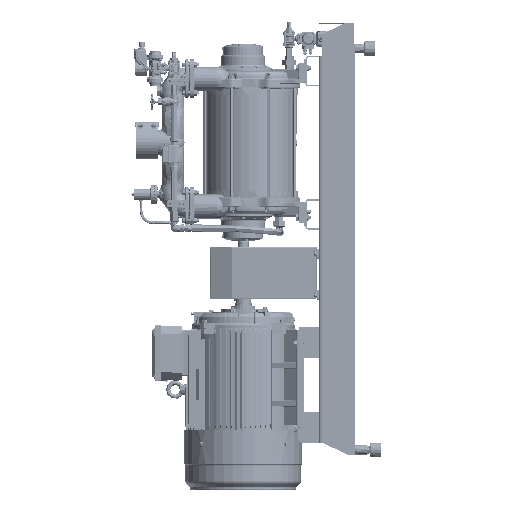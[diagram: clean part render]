
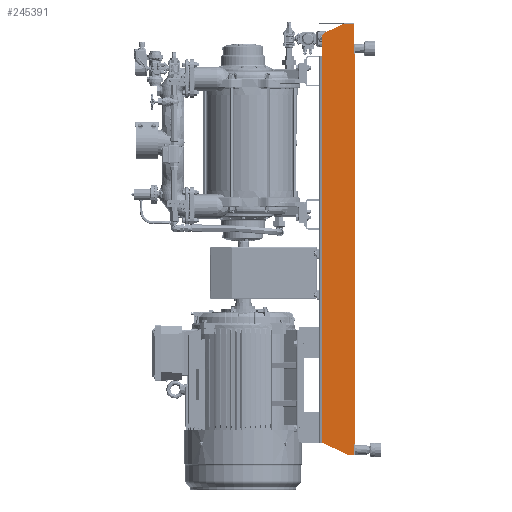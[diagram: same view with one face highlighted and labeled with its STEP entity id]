
A CAD part, left-side view. The second image highlights one B-rep face of the part: STEP entity #245391.
In plain terms, the highlighted planar face has unit normal (-1, 0, 0).
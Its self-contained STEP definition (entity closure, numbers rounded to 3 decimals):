
#8269=PLANE('',#269603);
#24720=CIRCLE('',#269604,25.);
#37655=FACE_OUTER_BOUND('',#52695,.T.);
#52695=EDGE_LOOP('',(#209154,#209155,#209156,#209157,#209158,#209159,#209160,
#209161,#209162,#209163,#209164,#209165));
#67773=LINE('',#594137,#83565);
#68481=LINE('',#596342,#84273);
#68482=LINE('',#596344,#84274);
#68483=LINE('',#596345,#84275);
#68484=LINE('',#596347,#84276);
#68485=LINE('',#596351,#84277);
#68486=LINE('',#596353,#84278);
#68487=LINE('',#596355,#84279);
#68488=LINE('',#596357,#84280);
#68489=LINE('',#596359,#84281);
#68490=LINE('',#596360,#84282);
#83565=VECTOR('',#324421,10.);
#84273=VECTOR('',#326355,10.);
#84274=VECTOR('',#326356,10.);
#84275=VECTOR('',#326357,10.);
#84276=VECTOR('',#326358,10.);
#84277=VECTOR('',#326361,10.);
#84278=VECTOR('',#326362,10.);
#84279=VECTOR('',#326363,10.);
#84280=VECTOR('',#326364,10.);
#84281=VECTOR('',#326365,10.);
#84282=VECTOR('',#326366,10.);
#110986=VERTEX_POINT('',#594134);
#110987=VERTEX_POINT('',#594136);
#111612=VERTEX_POINT('',#596340);
#111613=VERTEX_POINT('',#596341);
#111614=VERTEX_POINT('',#596343);
#111615=VERTEX_POINT('',#596346);
#111616=VERTEX_POINT('',#596348);
#111617=VERTEX_POINT('',#596350);
#111618=VERTEX_POINT('',#596352);
#111619=VERTEX_POINT('',#596354);
#111620=VERTEX_POINT('',#596356);
#111621=VERTEX_POINT('',#596358);
#143664=EDGE_CURVE('',#110986,#110987,#67773,.T.);
#144696=EDGE_CURVE('',#111612,#111613,#68481,.T.);
#144697=EDGE_CURVE('',#111612,#111614,#68482,.T.);
#144698=EDGE_CURVE('',#110987,#111614,#68483,.T.);
#144699=EDGE_CURVE('',#111615,#110986,#68484,.T.);
#144700=EDGE_CURVE('',#111616,#111615,#24720,.T.);
#144701=EDGE_CURVE('',#111617,#111616,#68485,.T.);
#144702=EDGE_CURVE('',#111617,#111618,#68486,.T.);
#144703=EDGE_CURVE('',#111619,#111618,#68487,.T.);
#144704=EDGE_CURVE('',#111620,#111619,#68488,.T.);
#144705=EDGE_CURVE('',#111620,#111621,#68489,.T.);
#144706=EDGE_CURVE('',#111621,#111613,#68490,.T.);
#209154=ORIENTED_EDGE('',*,*,#144696,.F.);
#209155=ORIENTED_EDGE('',*,*,#144697,.T.);
#209156=ORIENTED_EDGE('',*,*,#144698,.F.);
#209157=ORIENTED_EDGE('',*,*,#143664,.F.);
#209158=ORIENTED_EDGE('',*,*,#144699,.F.);
#209159=ORIENTED_EDGE('',*,*,#144700,.F.);
#209160=ORIENTED_EDGE('',*,*,#144701,.F.);
#209161=ORIENTED_EDGE('',*,*,#144702,.T.);
#209162=ORIENTED_EDGE('',*,*,#144703,.F.);
#209163=ORIENTED_EDGE('',*,*,#144704,.F.);
#209164=ORIENTED_EDGE('',*,*,#144705,.T.);
#209165=ORIENTED_EDGE('',*,*,#144706,.T.);
#245391=ADVANCED_FACE('',(#37655),#8269,.T.);
#269603=AXIS2_PLACEMENT_3D('',#596339,#326353,#326354);
#269604=AXIS2_PLACEMENT_3D('',#596349,#326359,#326360);
#324421=DIRECTION('',(0.,-1.,0.));
#326353=DIRECTION('center_axis',(-1.,0.,0.));
#326354=DIRECTION('ref_axis',(0.,0.,
-1.));
#326355=DIRECTION('',(0.,0.,-1.));
#326356=DIRECTION('',(0.,1.,0.));
#326357=DIRECTION('',(0.,0.,-1.));
#326358=DIRECTION('',(0.,-0.906,0.423));
#326359=DIRECTION('center_axis',(1.,0.,0.));
#326360=DIRECTION('ref_axis',(0.,0.843,0.537));
#326361=DIRECTION('',(0.,0.,1.));
#326362=DIRECTION('',(0.,0.,-1.));
#326363=DIRECTION('',(0.,0.906,0.423));
#326364=DIRECTION('',(0.,1.,0.));
#326365=DIRECTION('',(0.,0.,1.));
#326366=DIRECTION('',(0.,-1.,0.));
#594134=CARTESIAN_POINT('',(-254.,51.196,923.75));
#594136=CARTESIAN_POINT('',(-254.,6.,923.75));
#594137=CARTESIAN_POINT('',(-254.,51.196,923.75));
#596339=CARTESIAN_POINT('Origin',(-254.,403.586,0.));
#596340=CARTESIAN_POINT('',(-254.,0.,799.75));
#596341=CARTESIAN_POINT('',(-254.,0.,-799.75));
#596342=CARTESIAN_POINT('',(-254.,0.,-793.75));
#596343=CARTESIAN_POINT('',(-254.,6.,799.75));
#596344=CARTESIAN_POINT('',(-254.,201.793,799.75));
#596345=CARTESIAN_POINT('',(-254.,6.,923.75));
#596346=CARTESIAN_POINT('',(-254.,123.565,890.004));
#596347=CARTESIAN_POINT('',(-254.,138.,883.273));
#596348=CARTESIAN_POINT('',(-254.,138.,867.346));
#596349=CARTESIAN_POINT('Origin',(-254.,113.,867.346));
#596350=CARTESIAN_POINT('',(-254.,138.,793.75));
#596351=CARTESIAN_POINT('',(-254.,138.,793.75));
#596352=CARTESIAN_POINT('',(-254.,138.,-793.75));
#596353=CARTESIAN_POINT('',(-254.,138.,0.));
#596354=CARTESIAN_POINT('',(-254.,30.775,-843.75));
#596355=CARTESIAN_POINT('',(-254.,30.775,-843.75));
#596356=CARTESIAN_POINT('',(-254.,6.,-843.75));
#596357=CARTESIAN_POINT('',(-254.,0.,-843.75));
#596358=CARTESIAN_POINT('',(-254.,6.,-799.75));
#596359=CARTESIAN_POINT('',(-254.,6.,-410.875));
#596360=CARTESIAN_POINT('',(-254.,201.793,-799.75));
